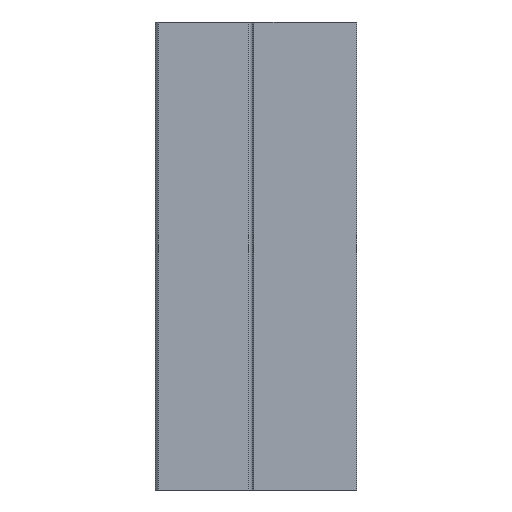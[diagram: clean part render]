
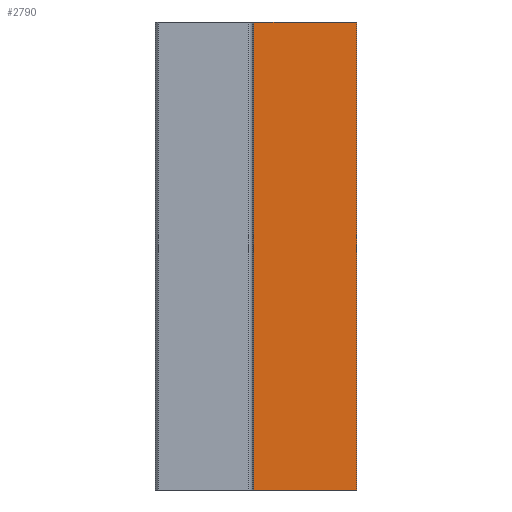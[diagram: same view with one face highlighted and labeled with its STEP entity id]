
A CAD part, front view. The second image highlights one B-rep face of the part: STEP entity #2790.
In plain terms, the highlighted planar face has unit normal (0, -1, 0).
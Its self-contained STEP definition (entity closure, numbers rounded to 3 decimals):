
#2777=AXIS2_PLACEMENT_3D('Plane Axis2P3D',#2774,#2775,#2776) ;
#2283=CARTESIAN_POINT('Vertex',(0.,0.,0.)) ;
#2286=CARTESIAN_POINT('Line Origine',(0.,0.,-43.)) ;
#2290=CARTESIAN_POINT('Vertex',(0.,0.,-86.)) ;
#2537=CARTESIAN_POINT('Line Origine',(-9.448,0.,-86.)) ;
#2541=CARTESIAN_POINT('Vertex',(-18.896,0.,-86.)) ;
#2696=CARTESIAN_POINT('Vertex',(-18.896,0.,0.)) ;
#2699=CARTESIAN_POINT('Line Origine',(-9.448,0.,0.)) ;
#2774=CARTESIAN_POINT('Axis2P3D Location',(-0.5,0.,0.)) ;
#2779=CARTESIAN_POINT('Line Origine',(-18.896,0.,-43.)) ;
#2287=DIRECTION('Vector Direction',(0.,0.,1.)) ;
#2538=DIRECTION('Vector Direction',(1.,0.,0.)) ;
#2700=DIRECTION('Vector Direction',(-1.,0.,0.)) ;
#2775=DIRECTION('Axis2P3D Direction',(0.,-1.,0.)) ;
#2776=DIRECTION('Axis2P3D XDirection',(0.,0.,1.)) ;
#2780=DIRECTION('Vector Direction',(0.,0.,-1.)) ;
#2288=VECTOR('Line Direction',#2287,1.) ;
#2539=VECTOR('Line Direction',#2538,1.) ;
#2701=VECTOR('Line Direction',#2700,1.) ;
#2781=VECTOR('Line Direction',#2780,1.) ;
#2785=ORIENTED_EDGE('',*,*,#2543,.T.) ;
#2786=ORIENTED_EDGE('',*,*,#2292,.T.) ;
#2787=ORIENTED_EDGE('',*,*,#2703,.T.) ;
#2788=ORIENTED_EDGE('',*,*,#2783,.T.) ;
#2790=ADVANCED_FACE('NOCUT',(#2789),#2778,.T.) ;
#2292=EDGE_CURVE('',#2291,#2284,#2289,.T.) ;
#2543=EDGE_CURVE('',#2542,#2291,#2540,.T.) ;
#2703=EDGE_CURVE('',#2284,#2697,#2702,.T.) ;
#2783=EDGE_CURVE('',#2697,#2542,#2782,.T.) ;
#2784=EDGE_LOOP('',(#2785,#2786,#2787,#2788)) ;
#2789=FACE_OUTER_BOUND('',#2784,.T.) ;
#2289=LINE('Line',#2286,#2288) ;
#2540=LINE('Line',#2537,#2539) ;
#2702=LINE('Line',#2699,#2701) ;
#2782=LINE('Line',#2779,#2781) ;
#2778=PLANE('',#2777) ;
#2284=VERTEX_POINT('',#2283) ;
#2291=VERTEX_POINT('',#2290) ;
#2542=VERTEX_POINT('',#2541) ;
#2697=VERTEX_POINT('',#2696) ;
